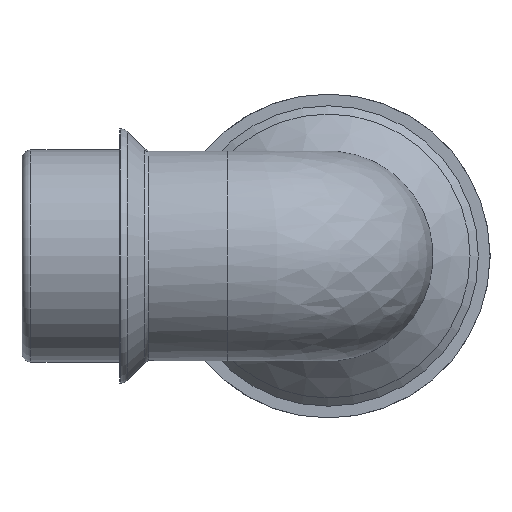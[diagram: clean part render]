
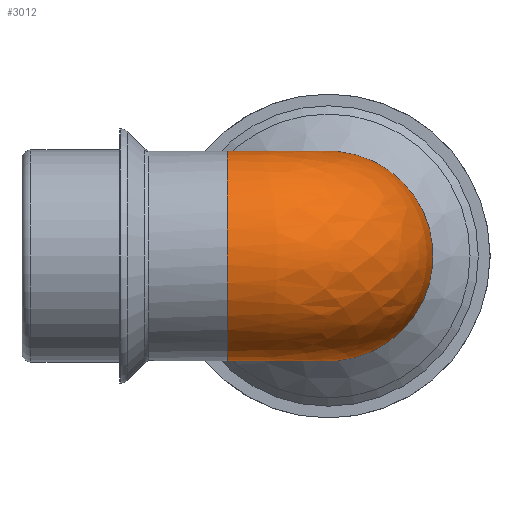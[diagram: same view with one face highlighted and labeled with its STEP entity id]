
A CAD part, left-side view. The second image highlights one B-rep face of the part: STEP entity #3012.
In plain terms, the highlighted free-form (B-spline) face has degree [2, 2] with [9, 3] control points.
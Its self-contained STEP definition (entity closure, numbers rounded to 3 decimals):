
#518=(
BOUNDED_SURFACE()
B_SPLINE_SURFACE(2,2,((#4603,#4604,#4605),(#4606,#4607,#4608),(#4609,#4610,
#4611),(#4612,#4613,#4614),(#4615,#4616,#4617),(#4618,#4619,#4620),(#4621,
#4622,#4623),(#4624,#4625,#4626),(#4627,#4628,#4629)),.UNSPECIFIED.,.F.,
 .F.,.F.)
B_SPLINE_SURFACE_WITH_KNOTS((3,2,2,2,3),(3,3),(-2.865,-1.432,
0.,1.432,2.865),(-3.142,-1.571),
 .UNSPECIFIED.)
GEOMETRIC_REPRESENTATION_ITEM()
RATIONAL_B_SPLINE_SURFACE(((1.,0.707,1.),(0.754,
0.533,0.754),(1.,0.707,1.),(0.754,
0.533,0.754),(1.,0.707,1.),(0.754,
0.533,0.754),(1.,0.707,1.),(0.754,
0.533,0.754),(1.,0.707,1.)))
REPRESENTATION_ITEM('')
SURFACE()
);
#655=FACE_OUTER_BOUND('',#870,.T.);
#870=EDGE_LOOP('',(#2027,#2028));
#1102=CIRCLE('',#3225,23.662);
#1106=CIRCLE('',#3231,23.662);
#1282=VERTEX_POINT('',#4582);
#1283=VERTEX_POINT('',#4583);
#1559=EDGE_CURVE('',#1282,#1283,#1102,.T.);
#1563=EDGE_CURVE('',#1282,#1283,#1106,.T.);
#2027=ORIENTED_EDGE('',*,*,#1559,.T.);
#2028=ORIENTED_EDGE('',*,*,#1563,.F.);
#3012=ADVANCED_FACE('',(#655),#518,.F.);
#3225=AXIS2_PLACEMENT_3D('',#4594,#3620,#3621);
#3231=AXIS2_PLACEMENT_3D('',#4630,#3632,#3633);
#3620=DIRECTION('center_axis',(0.,-1.,0.));
#3621=DIRECTION('ref_axis',(-1.,0.,0.));
#3632=DIRECTION('center_axis',(1.,0.,0.));
#3633=DIRECTION('ref_axis',(0.,0.,-1.));
#4582=CARTESIAN_POINT('',(22.76,22.76,6.473));
#4583=CARTESIAN_POINT('',(22.76,22.76,-6.473));
#4594=CARTESIAN_POINT('Origin',(0.,22.76,0.));
#4603=CARTESIAN_POINT('Ctrl Pts',(22.76,22.76,-6.473));
#4604=CARTESIAN_POINT('Ctrl Pts',(22.76,22.76,-6.473));
#4605=CARTESIAN_POINT('Ctrl Pts',(22.76,22.76,-6.473));
#4606=CARTESIAN_POINT('Ctrl Pts',(17.127,22.76,-26.279));
#4607=CARTESIAN_POINT('Ctrl Pts',(17.127,17.127,-26.279));
#4608=CARTESIAN_POINT('Ctrl Pts',(22.76,17.127,-26.279));
#4609=CARTESIAN_POINT('Ctrl Pts',(-3.268,22.76,-23.436));
#4610=CARTESIAN_POINT('Ctrl Pts',(-3.268,-3.268,-23.436));
#4611=CARTESIAN_POINT('Ctrl Pts',(22.76,-3.268,-23.436));
#4612=CARTESIAN_POINT('Ctrl Pts',(-23.662,22.76,-20.592));
#4613=CARTESIAN_POINT('Ctrl Pts',(-23.662,-23.662,-20.592));
#4614=CARTESIAN_POINT('Ctrl Pts',(22.76,-23.662,-20.592));
#4615=CARTESIAN_POINT('Ctrl Pts',(-23.662,22.76,0.));
#4616=CARTESIAN_POINT('Ctrl Pts',(-23.662,-23.662,0.));
#4617=CARTESIAN_POINT('Ctrl Pts',(22.76,-23.662,0.));
#4618=CARTESIAN_POINT('Ctrl Pts',(-23.662,22.76,20.592));
#4619=CARTESIAN_POINT('Ctrl Pts',(-23.662,-23.662,20.592));
#4620=CARTESIAN_POINT('Ctrl Pts',(22.76,-23.662,20.592));
#4621=CARTESIAN_POINT('Ctrl Pts',(-3.268,22.76,23.436));
#4622=CARTESIAN_POINT('Ctrl Pts',(-3.268,-3.268,23.436));
#4623=CARTESIAN_POINT('Ctrl Pts',(22.76,-3.268,23.436));
#4624=CARTESIAN_POINT('Ctrl Pts',(17.127,22.76,26.279));
#4625=CARTESIAN_POINT('Ctrl Pts',(17.127,17.127,26.279));
#4626=CARTESIAN_POINT('Ctrl Pts',(22.76,17.127,26.279));
#4627=CARTESIAN_POINT('Ctrl Pts',(22.76,22.76,6.473));
#4628=CARTESIAN_POINT('Ctrl Pts',(22.76,22.76,6.473));
#4629=CARTESIAN_POINT('Ctrl Pts',(22.76,22.76,6.473));
#4630=CARTESIAN_POINT('Origin',(22.76,0.,0.));
